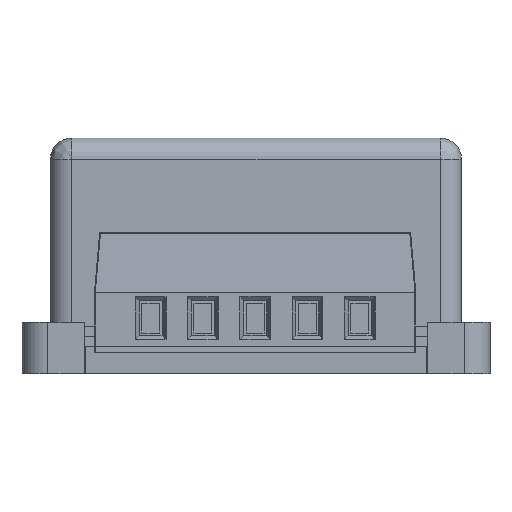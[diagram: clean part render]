
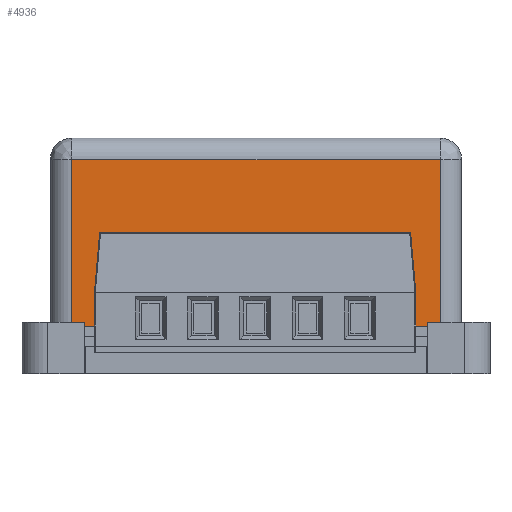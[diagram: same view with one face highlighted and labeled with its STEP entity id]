
A CAD part, front view. The second image highlights one B-rep face of the part: STEP entity #4936.
In plain terms, the highlighted planar face has unit normal (0, -1, 0) as drawn and (1, 0, 0) by its records, which use the part's own axes.
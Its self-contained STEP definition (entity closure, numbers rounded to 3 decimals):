
#1091 = VECTOR ( 'NONE', #62511, 1000. ) ;
#4936 = ADVANCED_FACE ( 'NONE', ( #55892 ), #43495, .F. ) ;
#5813 = EDGE_LOOP ( 'NONE', ( #68808, #111402, #80498, #68349 ) ) ;
#7582 = VECTOR ( 'NONE', #13892, 1000. ) ;
#7937 = EDGE_CURVE ( 'NONE', #149467, #103893, #121793, .T. ) ;
#13892 = DIRECTION ( 'NONE',  ( 0., 0., -1. ) ) ;
#15244 = CARTESIAN_POINT ( 'NONE',  ( 35., -21.5, 19.5 ) ) ;
#29131 = VECTOR ( 'NONE', #56794, 1000. ) ;
#32779 = DIRECTION ( 'NONE',  ( -1., 0., 0. ) ) ;
#35410 = LINE ( 'NONE', #107409, #93916 ) ;
#42131 = CARTESIAN_POINT ( 'NONE',  ( 35., 21.5, 0. ) ) ;
#43495 = PLANE ( 'NONE',  #85621 ) ;
#49099 = CARTESIAN_POINT ( 'NONE',  ( 35., -21.5, 0. ) ) ;
#50367 = EDGE_CURVE ( 'NONE', #149467, #95833, #149805, .T. ) ;
#55892 = FACE_OUTER_BOUND ( 'NONE', #5813, .T. ) ;
#56794 = DIRECTION ( 'NONE',  ( 0., 0., 1. ) ) ;
#62511 = DIRECTION ( 'NONE',  ( 0., 1., 0. ) ) ;
#68349 = ORIENTED_EDGE ( 'NONE', *, *, #136017, .F. ) ;
#68808 = ORIENTED_EDGE ( 'NONE', *, *, #50367, .F. ) ;
#69667 = LINE ( 'NONE', #83817, #7582 ) ;
#78008 = CARTESIAN_POINT ( 'NONE',  ( 35., 21.5, 19.5 ) ) ;
#80498 = ORIENTED_EDGE ( 'NONE', *, *, #115115, .F. ) ;
#83817 = CARTESIAN_POINT ( 'NONE',  ( 35., 21.5, 22. ) ) ;
#85621 = AXIS2_PLACEMENT_3D ( 'NONE', #102761, #32779, #114577 ) ;
#91453 = VERTEX_POINT ( 'NONE', #78008 ) ;
#93916 = VECTOR ( 'NONE', #119200, 1000. ) ;
#95833 = VERTEX_POINT ( 'NONE', #15244 ) ;
#102761 = CARTESIAN_POINT ( 'NONE',  ( 35., 24., 22. ) ) ;
#103893 = VERTEX_POINT ( 'NONE', #42131 ) ;
#107409 = CARTESIAN_POINT ( 'NONE',  ( 35., 24., 19.5 ) ) ;
#111402 = ORIENTED_EDGE ( 'NONE', *, *, #7937, .T. ) ;
#114577 = DIRECTION ( 'NONE',  ( 0., -1., 0. ) ) ;
#115115 = EDGE_CURVE ( 'NONE', #91453, #103893, #69667, .T. ) ;
#119200 = DIRECTION ( 'NONE',  ( 0., 1., 0. ) ) ;
#121793 = LINE ( 'NONE', #144374, #1091 ) ;
#136017 = EDGE_CURVE ( 'NONE', #95833, #91453, #35410, .T. ) ;
#138596 = CARTESIAN_POINT ( 'NONE',  ( 35., -21.5, 22. ) ) ;
#144374 = CARTESIAN_POINT ( 'NONE',  ( 35., -24., 0. ) ) ;
#149467 = VERTEX_POINT ( 'NONE', #49099 ) ;
#149805 = LINE ( 'NONE', #138596, #29131 ) ;
